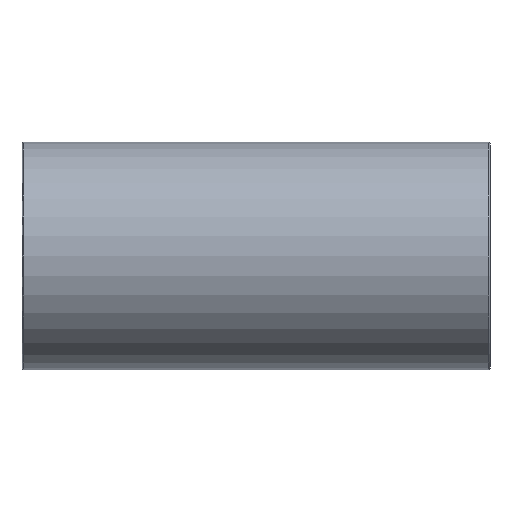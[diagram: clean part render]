
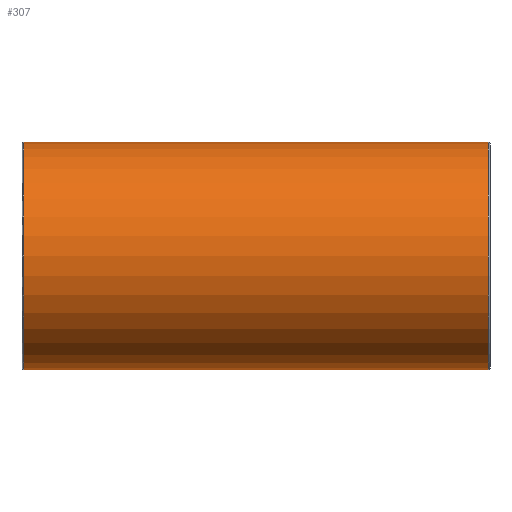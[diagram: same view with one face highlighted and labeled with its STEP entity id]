
A CAD part, front view. The second image highlights one B-rep face of the part: STEP entity #307.
In plain terms, the highlighted cylindrical face has radius 36.5 mm (diameter 73 mm), a full revolution.
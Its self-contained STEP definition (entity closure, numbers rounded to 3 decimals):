
#21=B_SPLINE_CURVE_WITH_KNOTS('',3,(#503,#504,#505,#506,#507,#508,#509,
#510,#511,#512,#513,#514,#515,#516,#517,#518,#519,#520,#521,#522,#523,#524,
#525,#526,#527,#528,#529,#530,#531,#532,#533,#534,#535,#536,#537,#538,#539,
#540,#541,#542,#543,#544,#545,#546,#547,#548,#549,#550,#551,#552,#553,#554,
#555,#556,#557,#558,#559,#560,#561,#562,#563,#564,#565,#566,#567,#568,#569,
#570,#571,#572,#573,#574,#575,#576,#577,#578,#579,#580,#581,#582,#583,#584),
 .UNSPECIFIED.,.T.,.F.,(4,2,2,2,2,2,2,2,2,2,2,2,2,2,2,2,2,2,2,2,2,2,2,2,
2,2,2,2,2,2,2,2,2,2,2,2,2,2,2,2,4),(0.,0.414,0.827,
1.241,1.654,2.481,3.308,4.039,
4.771,5.502,6.233,6.964,7.695,
8.426,9.157,9.984,10.812,11.225,
11.639,12.052,12.466,12.879,13.293,
13.706,14.12,14.947,15.774,16.505,
17.236,17.967,18.699,19.43,20.161,
20.892,21.623,22.45,23.277,23.691,
24.104,24.518,24.931),.UNSPECIFIED.);
#22=FACE_BOUND('',#90,.T.);
#23=FACE_BOUND('',#91,.T.);
#39=CIRCLE('',#333,36.5);
#40=CIRCLE('',#334,36.5);
#54=CYLINDRICAL_SURFACE('',#332,36.5);
#66=FACE_OUTER_BOUND('',#89,.T.);
#89=EDGE_LOOP('',(#250));
#90=EDGE_LOOP('',(#251));
#91=EDGE_LOOP('',(#252));
#170=VERTEX_POINT('',#498);
#171=VERTEX_POINT('',#500);
#172=VERTEX_POINT('',#502);
#204=EDGE_CURVE('',#170,#170,#39,.T.);
#205=EDGE_CURVE('',#171,#171,#40,.T.);
#206=EDGE_CURVE('',#172,#172,#21,.T.);
#250=ORIENTED_EDGE('',*,*,#204,.F.);
#251=ORIENTED_EDGE('',*,*,#205,.F.);
#252=ORIENTED_EDGE('',*,*,#206,.F.);
#307=ADVANCED_FACE('',(#66,#22,#23),#54,.T.);
#332=AXIS2_PLACEMENT_3D('',#497,#397,#398);
#333=AXIS2_PLACEMENT_3D('',#499,#399,#400);
#334=AXIS2_PLACEMENT_3D('',#501,#401,#402);
#397=DIRECTION('center_axis',(1.,0.,0.));
#398=DIRECTION('ref_axis',(0.,1.,0.));
#399=DIRECTION('center_axis',(-1.,0.,0.));
#400=DIRECTION('ref_axis',(0.,-1.,0.));
#401=DIRECTION('center_axis',(1.,0.,0.));
#402=DIRECTION('ref_axis',(0.,-1.,0.));
#497=CARTESIAN_POINT('Origin',(0.,0.,
0.));
#498=CARTESIAN_POINT('',(-74.433,36.5,0.));
#499=CARTESIAN_POINT('Origin',(-74.433,0.,0.));
#500=CARTESIAN_POINT('',(74.433,36.5,0.));
#501=CARTESIAN_POINT('Origin',(74.433,0.,0.));
#502=CARTESIAN_POINT('',(0.,10.28,35.022));
#503=CARTESIAN_POINT('Ctrl Pts',(0.,10.28,
35.022));
#504=CARTESIAN_POINT('Ctrl Pts',(1.378,10.28,35.022));
#505=CARTESIAN_POINT('Ctrl Pts',(2.645,10.526,34.952));
#506=CARTESIAN_POINT('Ctrl Pts',(5.056,11.293,34.711));
#507=CARTESIAN_POINT('Ctrl Pts',(6.202,11.816,34.541));
#508=CARTESIAN_POINT('Ctrl Pts',(8.44,13.021,34.105));
#509=CARTESIAN_POINT('Ctrl Pts',(9.53,13.703,33.839));
#510=CARTESIAN_POINT('Ctrl Pts',(11.68,15.162,33.211));
#511=CARTESIAN_POINT('Ctrl Pts',(12.738,15.939,32.848));
#512=CARTESIAN_POINT('Ctrl Pts',(15.882,18.356,31.601));
#513=CARTESIAN_POINT('Ctrl Pts',(17.917,20.063,30.563));
#514=CARTESIAN_POINT('Ctrl Pts',(21.778,23.405,28.086));
#515=CARTESIAN_POINT('Ctrl Pts',(23.602,25.042,26.646));
#516=CARTESIAN_POINT('Ctrl Pts',(26.729,27.887,23.629));
#517=CARTESIAN_POINT('Ctrl Pts',(28.16,29.21,21.996));
#518=CARTESIAN_POINT('Ctrl Pts',(30.762,31.633,18.341));
#519=CARTESIAN_POINT('Ctrl Pts',(31.932,32.733,16.318));
#520=CARTESIAN_POINT('Ctrl Pts',(33.862,34.556,11.986));
#521=CARTESIAN_POINT('Ctrl Pts',(34.625,35.28,9.671));
#522=CARTESIAN_POINT('Ctrl Pts',(35.648,36.252,4.896));
#523=CARTESIAN_POINT('Ctrl Pts',(35.909,36.5,2.437));
#524=CARTESIAN_POINT('Ctrl Pts',(35.909,36.5,-2.437));
#525=CARTESIAN_POINT('Ctrl Pts',(35.648,36.252,-4.896));
#526=CARTESIAN_POINT('Ctrl Pts',(34.625,35.28,-9.671));
#527=CARTESIAN_POINT('Ctrl Pts',(33.862,34.556,-11.986));
#528=CARTESIAN_POINT('Ctrl Pts',(31.932,32.733,-16.318));
#529=CARTESIAN_POINT('Ctrl Pts',(30.762,31.633,-18.341));
#530=CARTESIAN_POINT('Ctrl Pts',(28.16,29.21,-21.996));
#531=CARTESIAN_POINT('Ctrl Pts',(26.729,27.887,-23.629));
#532=CARTESIAN_POINT('Ctrl Pts',(23.602,25.042,-26.646));
#533=CARTESIAN_POINT('Ctrl Pts',(21.778,23.405,-28.086));
#534=CARTESIAN_POINT('Ctrl Pts',(17.917,20.063,-30.563));
#535=CARTESIAN_POINT('Ctrl Pts',(15.882,18.356,-31.601));
#536=CARTESIAN_POINT('Ctrl Pts',(12.738,15.939,-32.848));
#537=CARTESIAN_POINT('Ctrl Pts',(11.68,15.162,-33.211));
#538=CARTESIAN_POINT('Ctrl Pts',(9.53,13.703,-33.839));
#539=CARTESIAN_POINT('Ctrl Pts',(8.44,13.021,-34.105));
#540=CARTESIAN_POINT('Ctrl Pts',(6.202,11.816,-34.541));
#541=CARTESIAN_POINT('Ctrl Pts',(5.056,11.293,-34.711));
#542=CARTESIAN_POINT('Ctrl Pts',(2.645,10.526,-34.952));
#543=CARTESIAN_POINT('Ctrl Pts',(1.378,10.28,-35.022));
#544=CARTESIAN_POINT('Ctrl Pts',(-1.378,10.28,-35.022));
#545=CARTESIAN_POINT('Ctrl Pts',(-2.645,10.526,-34.952));
#546=CARTESIAN_POINT('Ctrl Pts',(-5.056,11.293,-34.711));
#547=CARTESIAN_POINT('Ctrl Pts',(-6.202,11.816,-34.541));
#548=CARTESIAN_POINT('Ctrl Pts',(-8.44,13.021,-34.105));
#549=CARTESIAN_POINT('Ctrl Pts',(-9.53,13.703,-33.839));
#550=CARTESIAN_POINT('Ctrl Pts',(-11.68,15.162,-33.211));
#551=CARTESIAN_POINT('Ctrl Pts',(-12.738,15.939,-32.848));
#552=CARTESIAN_POINT('Ctrl Pts',(-15.882,18.356,-31.601));
#553=CARTESIAN_POINT('Ctrl Pts',(-17.917,20.063,-30.563));
#554=CARTESIAN_POINT('Ctrl Pts',(-21.778,23.405,-28.086));
#555=CARTESIAN_POINT('Ctrl Pts',(-23.602,25.042,-26.646));
#556=CARTESIAN_POINT('Ctrl Pts',(-26.729,27.887,-23.629));
#557=CARTESIAN_POINT('Ctrl Pts',(-28.16,29.21,-21.996));
#558=CARTESIAN_POINT('Ctrl Pts',(-30.762,31.633,-18.341));
#559=CARTESIAN_POINT('Ctrl Pts',(-31.932,32.733,-16.318));
#560=CARTESIAN_POINT('Ctrl Pts',(-33.862,34.556,-11.986));
#561=CARTESIAN_POINT('Ctrl Pts',(-34.625,35.28,-9.671));
#562=CARTESIAN_POINT('Ctrl Pts',(-35.648,36.252,-4.896));
#563=CARTESIAN_POINT('Ctrl Pts',(-35.909,36.5,-2.437));
#564=CARTESIAN_POINT('Ctrl Pts',(-35.909,36.5,2.437));
#565=CARTESIAN_POINT('Ctrl Pts',(-35.648,36.252,4.896));
#566=CARTESIAN_POINT('Ctrl Pts',(-34.625,35.28,9.671));
#567=CARTESIAN_POINT('Ctrl Pts',(-33.862,34.556,11.986));
#568=CARTESIAN_POINT('Ctrl Pts',(-31.932,32.733,16.318));
#569=CARTESIAN_POINT('Ctrl Pts',(-30.762,31.633,18.341));
#570=CARTESIAN_POINT('Ctrl Pts',(-28.16,29.21,21.996));
#571=CARTESIAN_POINT('Ctrl Pts',(-26.729,27.887,23.629));
#572=CARTESIAN_POINT('Ctrl Pts',(-23.602,25.042,26.646));
#573=CARTESIAN_POINT('Ctrl Pts',(-21.778,23.405,28.086));
#574=CARTESIAN_POINT('Ctrl Pts',(-17.917,20.063,30.563));
#575=CARTESIAN_POINT('Ctrl Pts',(-15.882,18.356,31.601));
#576=CARTESIAN_POINT('Ctrl Pts',(-12.738,15.939,32.848));
#577=CARTESIAN_POINT('Ctrl Pts',(-11.68,15.162,33.211));
#578=CARTESIAN_POINT('Ctrl Pts',(-9.53,13.703,33.839));
#579=CARTESIAN_POINT('Ctrl Pts',(-8.44,13.021,34.105));
#580=CARTESIAN_POINT('Ctrl Pts',(-6.202,11.816,34.541));
#581=CARTESIAN_POINT('Ctrl Pts',(-5.056,11.293,34.711));
#582=CARTESIAN_POINT('Ctrl Pts',(-2.645,10.526,34.952));
#583=CARTESIAN_POINT('Ctrl Pts',(-1.378,10.28,35.022));
#584=CARTESIAN_POINT('Ctrl Pts',(0.,10.28,
35.022));
